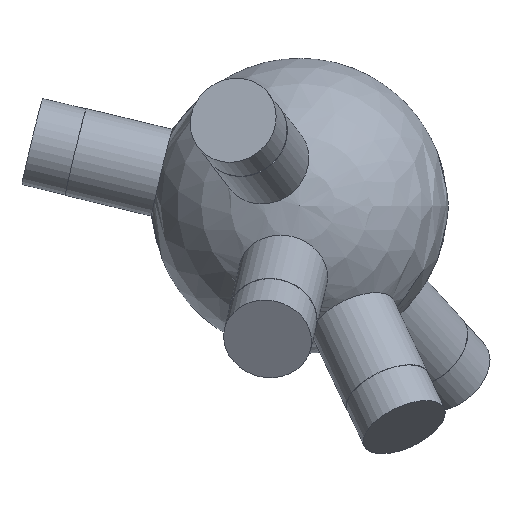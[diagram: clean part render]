
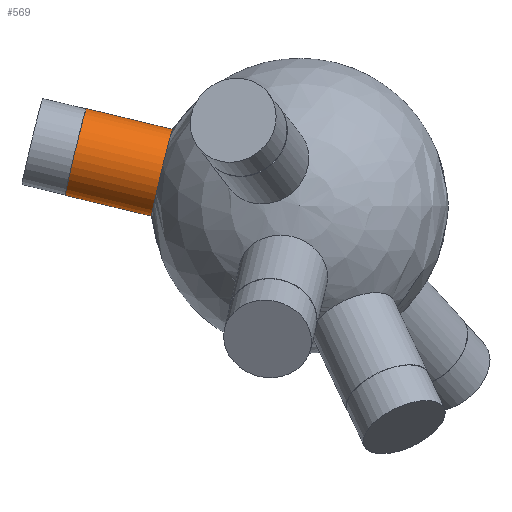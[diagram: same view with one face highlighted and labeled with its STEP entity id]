
A CAD part, top view. The second image highlights one B-rep face of the part: STEP entity #569.
In plain terms, the highlighted cylindrical face has radius 6 mm (diameter 12 mm), a full revolution.
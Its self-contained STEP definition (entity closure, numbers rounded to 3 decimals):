
#25 = EDGE_CURVE('',#26,#26,#28,.T.);
#26 = VERTEX_POINT('',#27);
#27 = CARTESIAN_POINT('',(-19.951,-1.362,
    -0.345));
#28 = SURFACE_CURVE('',#29,(#34,#101),.PCURVE_S1.);
#29 = CIRCLE('',#30,6.);
#30 = AXIS2_PLACEMENT_3D('',#31,#32,#33);
#31 = CARTESIAN_POINT('',(-18.544,4.471,-0.345
    ));
#32 = DIRECTION('',(-0.972,0.234,-0.018)
  );
#33 = DIRECTION('',(-0.234,-0.972,0.)
  );
#34 = PCURVE('',#35,#40);
#35 = SPHERICAL_SURFACE('',#36,20.);
#36 = AXIS2_PLACEMENT_3D('',#37,#38,#39);
#37 = CARTESIAN_POINT('',(0.,0.,0.));
#38 = DIRECTION('',(0.,0.,1.));
#39 = DIRECTION('',(1.,0.,-0.));
#40 = DEFINITIONAL_REPRESENTATION('',(#41),#100);
#41 = B_SPLINE_CURVE_WITH_KNOTS('',8,(#42,#43,#44,#45,#46,#47,#48,#49,
    #50,#51,#52,#53,#54,#55,#56,#57,#58,#59,#60,#61,#62,#63,#64,#65,#66,
    #67,#68,#69,#70,#71,#72,#73,#74,#75,#76,#77,#78,#79,#80,#81,#82,#83,
    #84,#85,#86,#87,#88,#89,#90,#91,#92,#93,#94,#95,#96,#97,#98,#99),
  .UNSPECIFIED.,.F.,.F.,(9,7,7,7,7,7,7,7,9),(0.,0.785,
    1.473,2.074,3.126,3.915,
    4.507,5.395,6.283),.UNSPECIFIED.);
#42 = CARTESIAN_POINT('',(3.21,-0.017));
#43 = CARTESIAN_POINT('',(3.21,0.012));
#44 = CARTESIAN_POINT('',(3.206,0.042));
#45 = CARTESIAN_POINT('',(3.2,0.071));
#46 = CARTESIAN_POINT('',(3.19,0.099));
#47 = CARTESIAN_POINT('',(3.178,0.126));
#48 = CARTESIAN_POINT('',(3.162,0.151));
#49 = CARTESIAN_POINT('',(3.144,0.175));
#50 = CARTESIAN_POINT('',(3.105,0.215));
#51 = CARTESIAN_POINT('',(3.085,0.231));
#52 = CARTESIAN_POINT('',(3.063,0.246));
#53 = CARTESIAN_POINT('',(3.039,0.259));
#54 = CARTESIAN_POINT('',(3.015,0.269));
#55 = CARTESIAN_POINT('',(2.989,0.277));
#56 = CARTESIAN_POINT('',(2.962,0.282));
#57 = CARTESIAN_POINT('',(2.912,0.287));
#58 = CARTESIAN_POINT('',(2.889,0.288));
#59 = CARTESIAN_POINT('',(2.865,0.286));
#60 = CARTESIAN_POINT('',(2.842,0.282));
#61 = CARTESIAN_POINT('',(2.819,0.276));
#62 = CARTESIAN_POINT('',(2.797,0.269));
#63 = CARTESIAN_POINT('',(2.775,0.259));
#64 = CARTESIAN_POINT('',(2.72,0.228));
#65 = CARTESIAN_POINT('',(2.688,0.204));
#66 = CARTESIAN_POINT('',(2.66,0.174));
#67 = CARTESIAN_POINT('',(2.637,0.141));
#68 = CARTESIAN_POINT('',(2.62,0.104));
#69 = CARTESIAN_POINT('',(2.608,0.066));
#70 = CARTESIAN_POINT('',(2.601,0.027));
#71 = CARTESIAN_POINT('',(2.6,-0.042));
#72 = CARTESIAN_POINT('',(2.602,-0.072));
#73 = CARTESIAN_POINT('',(2.608,-0.101));
#74 = CARTESIAN_POINT('',(2.617,-0.13));
#75 = CARTESIAN_POINT('',(2.629,-0.157));
#76 = CARTESIAN_POINT('',(2.644,-0.183));
#77 = CARTESIAN_POINT('',(2.662,-0.207));
#78 = CARTESIAN_POINT('',(2.698,-0.245));
#79 = CARTESIAN_POINT('',(2.715,-0.26));
#80 = CARTESIAN_POINT('',(2.734,-0.274));
#81 = CARTESIAN_POINT('',(2.753,-0.286));
#82 = CARTESIAN_POINT('',(2.774,-0.296));
#83 = CARTESIAN_POINT('',(2.796,-0.305));
#84 = CARTESIAN_POINT('',(2.818,-0.311));
#85 = CARTESIAN_POINT('',(2.875,-0.323));
#86 = CARTESIAN_POINT('',(2.91,-0.326));
#87 = CARTESIAN_POINT('',(2.946,-0.324));
#88 = CARTESIAN_POINT('',(2.981,-0.318));
#89 = CARTESIAN_POINT('',(3.015,-0.308));
#90 = CARTESIAN_POINT('',(3.047,-0.293));
#91 = CARTESIAN_POINT('',(3.076,-0.274));
#92 = CARTESIAN_POINT('',(3.128,-0.231));
#93 = CARTESIAN_POINT('',(3.151,-0.206));
#94 = CARTESIAN_POINT('',(3.171,-0.178));
#95 = CARTESIAN_POINT('',(3.186,-0.148));
#96 = CARTESIAN_POINT('',(3.198,-0.117));
#97 = CARTESIAN_POINT('',(3.206,-0.084));
#98 = CARTESIAN_POINT('',(3.21,-0.051));
#99 = CARTESIAN_POINT('',(3.21,-0.017));
#100 = ( GEOMETRIC_REPRESENTATION_CONTEXT(2) 
PARAMETRIC_REPRESENTATION_CONTEXT() REPRESENTATION_CONTEXT('2D SPACE',''
  ) );
#101 = PCURVE('',#102,#107);
#102 = CYLINDRICAL_SURFACE('',#103,6.);
#103 = AXIS2_PLACEMENT_3D('',#104,#105,#106);
#104 = CARTESIAN_POINT('',(0.,0.,0.));
#105 = DIRECTION('',(-0.972,0.234,-0.018)
  );
#106 = DIRECTION('',(-0.234,-0.972,0.)
  );
#107 = DEFINITIONAL_REPRESENTATION('',(#108),#112);
#108 = LINE('',#109,#110);
#109 = CARTESIAN_POINT('',(0.,19.079));
#110 = VECTOR('',#111,1.);
#111 = DIRECTION('',(1.,0.));
#112 = ( GEOMETRIC_REPRESENTATION_CONTEXT(2) 
PARAMETRIC_REPRESENTATION_CONTEXT() REPRESENTATION_CONTEXT('2D SPACE',''
  ) );
#569 = ADVANCED_FACE('',(#570),#102,.T.);
#570 = FACE_BOUND('',#571,.T.);
#571 = EDGE_LOOP('',(#572,#595,#622,#623));
#572 = ORIENTED_EDGE('',*,*,#573,.T.);
#573 = EDGE_CURVE('',#26,#574,#576,.T.);
#574 = VERTEX_POINT('',#575);
#575 = CARTESIAN_POINT('',(-31.538,1.431,-0.561
    ));
#576 = SEAM_CURVE('',#577,(#581,#588),.PCURVE_S1.);
#577 = LINE('',#578,#579);
#578 = CARTESIAN_POINT('',(-1.406,-5.833,
    0.));
#579 = VECTOR('',#580,1.);
#580 = DIRECTION('',(-0.972,0.234,-0.018)
  );
#581 = PCURVE('',#102,#582);
#582 = DEFINITIONAL_REPRESENTATION('',(#583),#587);
#583 = LINE('',#584,#585);
#584 = CARTESIAN_POINT('',(6.283,-0.));
#585 = VECTOR('',#586,1.);
#586 = DIRECTION('',(0.,1.));
#587 = ( GEOMETRIC_REPRESENTATION_CONTEXT(2) 
PARAMETRIC_REPRESENTATION_CONTEXT() REPRESENTATION_CONTEXT('2D SPACE',''
  ) );
#588 = PCURVE('',#102,#589);
#589 = DEFINITIONAL_REPRESENTATION('',(#590),#594);
#590 = LINE('',#591,#592);
#591 = CARTESIAN_POINT('',(0.,-0.));
#592 = VECTOR('',#593,1.);
#593 = DIRECTION('',(0.,1.));
#594 = ( GEOMETRIC_REPRESENTATION_CONTEXT(2) 
PARAMETRIC_REPRESENTATION_CONTEXT() REPRESENTATION_CONTEXT('2D SPACE',''
  ) );
#595 = ORIENTED_EDGE('',*,*,#596,.F.);
#596 = EDGE_CURVE('',#574,#574,#597,.T.);
#597 = SURFACE_CURVE('',#598,(#603,#610),.PCURVE_S1.);
#598 = CIRCLE('',#599,6.);
#599 = AXIS2_PLACEMENT_3D('',#600,#601,#602);
#600 = CARTESIAN_POINT('',(-30.132,7.264,
    -0.561));
#601 = DIRECTION('',(-0.972,0.234,-0.018)
  );
#602 = DIRECTION('',(-0.234,-0.972,0.)
  );
#603 = PCURVE('',#102,#604);
#604 = DEFINITIONAL_REPRESENTATION('',(#605),#609);
#605 = LINE('',#606,#607);
#606 = CARTESIAN_POINT('',(0.,31.001));
#607 = VECTOR('',#608,1.);
#608 = DIRECTION('',(1.,0.));
#609 = ( GEOMETRIC_REPRESENTATION_CONTEXT(2) 
PARAMETRIC_REPRESENTATION_CONTEXT() REPRESENTATION_CONTEXT('2D SPACE',''
  ) );
#610 = PCURVE('',#611,#616);
#611 = PLANE('',#612);
#612 = AXIS2_PLACEMENT_3D('',#613,#614,#615);
#613 = CARTESIAN_POINT('',(-30.132,7.264,
    -0.561));
#614 = DIRECTION('',(-0.972,0.234,-0.018)
  );
#615 = DIRECTION('',(-0.234,-0.972,0.)
  );
#616 = DEFINITIONAL_REPRESENTATION('',(#617),#621);
#617 = CIRCLE('',#618,6.);
#618 = AXIS2_PLACEMENT_2D('',#619,#620);
#619 = CARTESIAN_POINT('',(0.,0.));
#620 = DIRECTION('',(1.,0.));
#621 = ( GEOMETRIC_REPRESENTATION_CONTEXT(2) 
PARAMETRIC_REPRESENTATION_CONTEXT() REPRESENTATION_CONTEXT('2D SPACE',''
  ) );
#622 = ORIENTED_EDGE('',*,*,#573,.F.);
#623 = ORIENTED_EDGE('',*,*,#25,.T.);
